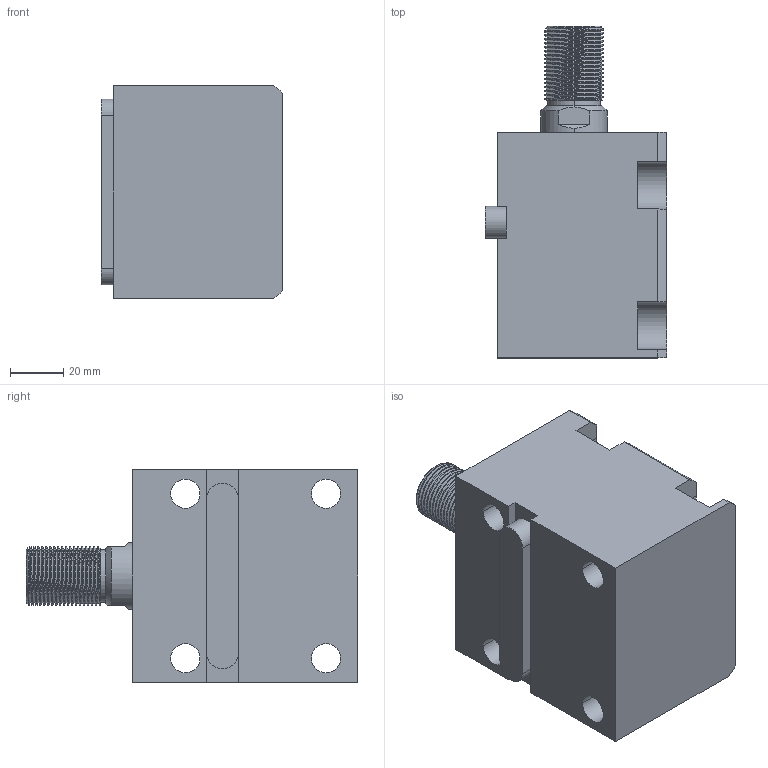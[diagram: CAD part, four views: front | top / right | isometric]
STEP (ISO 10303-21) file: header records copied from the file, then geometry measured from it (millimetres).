
FILE_DESCRIPTION (( 'STEP AP214' ), '1' );
FILE_NAME ('chtb-la40x30w_asm.STEP', '2018-06-04T00:40:36', ( 'Windows' ), ( 'Microsoft' ), 'SwSTEP 2.0', 'SolidWorks 2015', '' );
FILE_SCHEMA (( 'AUTOMOTIVE_DESIGN' ));
Length unit declared in the file: millimetre
Products named in the file (5): CHTB-SD40X30WHSG; CHTB-SD40QG; CHTB-LA40X30NBT; CHTB-LA40PJ; chtb-la40x30w_asm
Assembly tree (4 placements, depth 2):
  chtb-la40x30w_asm
    CHTB-LA40PJ
    CHTB-LA40X30NBT
    CHTB-SD40QG
    CHTB-SD40X30WHSG
Bounding box: 68.5 x 125 x 80 mm (x, y, z)
Volume: 390911.8 mm3; surface area: 81567.5 mm2
Topology: 4 solids, 5 shells, 205 faces, 559 edges, 373 vertices
Faces by surface type: cylinder 111, plane 52, bspline 16, cone 14, torus 12
Entity records: 13775 total; most frequent: CARTESIAN_POINT 8706, ORIENTED_EDGE 1106, DIRECTION 926, EDGE_CURVE 553, VERTEX_POINT 373, AXIS2_PLACEMENT_3D 363, EDGE_LOOP 234, ADVANCED_FACE 205
